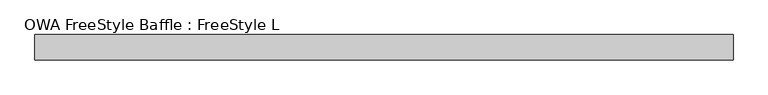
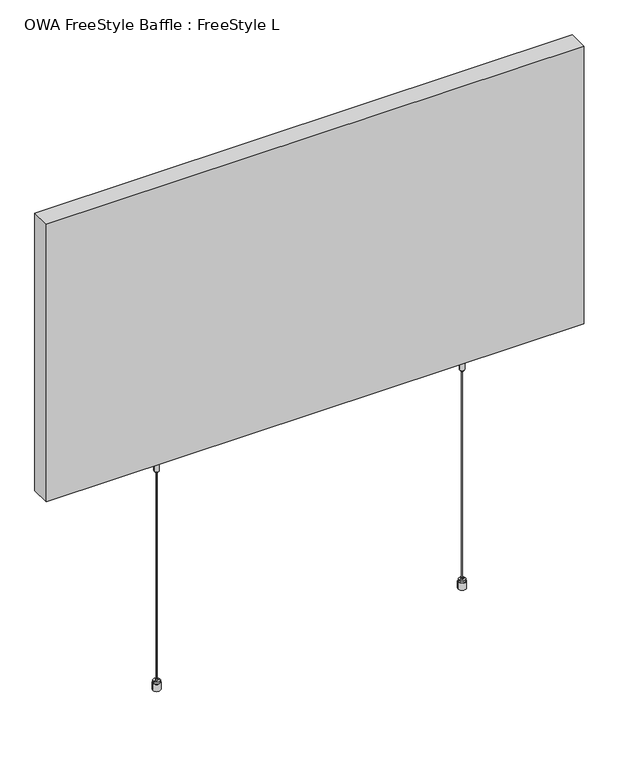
"""IFC4 building model written with IfcOpenShell, lengths in millimetres: proxy geometry, OWA FreeStyle Baffle : FreeStyle L."""

from ifc_helpers import new_model, si_unit, point, frame, frame_2d, origin, place, context, project, spatial, polyline, circle_curve, trimmed, segment, composite_curve, outline, extrude, source, transform, mapped, element, save
from ifc_brep_helpers import plane_surface, cylinder_surface, revolved_surface, advanced_brep


def owa_freestyle_baffle_freestyle_l_403e4e2e(model_context):
    return source(origin(), model_context, "Body", "SolidModel", [
        advanced_brep(
        [(-746.0, 0.0, 0.0), (-738.2593825, 0.0, 0.0), (-753.7406175, 0.0, 0.0), (-738.2593825, 0.0, 15.0), (-753.7406175, 0.0, 15.0), (-739.1843825, 0.0, 15.0), (-752.8156175, 0.0, 15.0), (-739.1843825, 0.0, 19.0), (-752.8156175, 0.0, 19.0), (-743.9343825, 0.0, 19.0), (-748.0656175, 0.0, 19.0), (-743.9343825, 0.0, 22.546183), (-748.0656175, 0.0, 22.546183), (-746.0, 0.0, 22.546183)],
        [
            (0, 1),
            (1, 2, circle_curve(frame((-746.0, 0.0, 0.0), z_axis=(0.0, 0.0, -1.0), x_axis=(-1.0, 0.0, 0.0)), 7.7406175)),
            (2, 0),
            (2, 1, circle_curve(frame((-746.0, 0.0, 0.0), z_axis=(0.0, 0.0, -1.0), x_axis=(-1.0, 0.0, 0.0)), 7.7406175)),
            (1, 3),
            (3, 4, circle_curve(frame((-746.0, 0.0, 15.0), z_axis=(0.0, 0.0, -1.0), x_axis=(-1.0, 0.0, 0.0)), 7.7406175)),
            (4, 2),
            (4, 3, circle_curve(frame((-746.0, 0.0, 15.0), z_axis=(0.0, 0.0, -1.0), x_axis=(-1.0, 0.0, 0.0)), 7.7406175)),
            (3, 5),
            (5, 6, circle_curve(frame((-746.0, 0.0, 15.0), z_axis=(0.0, 0.0, -1.0), x_axis=(-1.0, 0.0, 0.0)), 6.8156175)),
            (6, 4),
            (6, 5, circle_curve(frame((-746.0, 0.0, 15.0), z_axis=(0.0, 0.0, -1.0), x_axis=(-1.0, 0.0, 0.0)), 6.8156175)),
            (5, 7),
            (7, 8, circle_curve(frame((-746.0, 0.0, 19.0), z_axis=(0.0, 0.0, -1.0), x_axis=(-1.0, 0.0, 0.0)), 6.8156175)),
            (8, 6),
            (8, 7, circle_curve(frame((-746.0, 0.0, 19.0), z_axis=(0.0, 0.0, -1.0), x_axis=(-1.0, 0.0, 0.0)), 6.8156175)),
            (7, 9),
            (9, 10, circle_curve(frame((-746.0, 0.0, 19.0), z_axis=(0.0, 0.0, -1.0), x_axis=(-1.0, 0.0, 0.0)), 2.0656175)),
            (10, 8),
            (10, 9, circle_curve(frame((-746.0, 0.0, 19.0), z_axis=(0.0, 0.0, -1.0), x_axis=(-1.0, 0.0, 0.0)), 2.0656175)),
            (9, 11),
            (11, 12, circle_curve(frame((-746.0, 0.0, 22.546183), z_axis=(0.0, 0.0, -1.0), x_axis=(-1.0, 0.0, 0.0)), 2.0656175)),
            (12, 10),
            (12, 11, circle_curve(frame((-746.0, 0.0, 22.546183), z_axis=(0.0, 0.0, -1.0), x_axis=(-1.0, 0.0, 0.0)), 2.0656175)),
            (11, 13),
            (13, 12),
        ],
        [
            plane_surface(frame((-746.0, 0.0, 0.0), z_axis=(0.0, 0.0, -1.0), x_axis=(-1.0, 0.0, 0.0))),
            cylinder_surface(frame((-746.0, 0.0, -10.0), z_axis=(0.0, 0.0, -1.0), x_axis=(-1.0, 0.0, 0.0)), 7.7406175),
            plane_surface(frame((-746.0, 0.0, 15.0), z_axis=(0.0, 0.0, 1.0), x_axis=(-1.0, 0.0, 0.0))),
            cylinder_surface(frame((-746.0, 0.0, -10.0), z_axis=(0.0, 0.0, -1.0), x_axis=(-1.0, 0.0, 0.0)), 6.8156175),
            plane_surface(frame((-746.0, 0.0, 19.0), z_axis=(0.0, 0.0, 1.0), x_axis=(-1.0, 0.0, 0.0))),
            cylinder_surface(frame((-746.0, 0.0, -10.0), z_axis=(0.0, 0.0, -1.0), x_axis=(-1.0, 0.0, 0.0)), 2.0656175),
            plane_surface(frame((-746.0, 0.0, 22.546183), z_axis=(0.0, 0.0, 1.0), x_axis=(-1.0, 0.0, 0.0))),
        ],
        [
            (0, [[1, 2, 3]]),
            (0, [[-3, 4, -1]]),
            (1, [[5, 6, 7, -2]]),
            (1, [[-7, 8, -5, -4]]),
            (2, [[9, 10, 11, -6]]),
            (2, [[-11, 12, -9, -8]]),
            (3, [[13, 14, 15, -10]]),
            (3, [[-15, 16, -13, -12]]),
            (4, [[17, 18, 19, -14]]),
            (4, [[-19, 20, -17, -16]]),
            (5, [[21, 22, 23, -18]]),
            (5, [[-23, 24, -21, -20]]),
            (6, [[25, 26, -22]]),
            (6, [[-26, -25, -24]]),
        ],
    ),
        advanced_brep(
        [(-743.7615389, 0.0, 468.8211737), (-743.6339453, 0.0, 472.8711737), (-748.3660547, 0.0, 472.8711737), (-748.2384611, 0.0, 468.8211737), (-741.1339453, 0.0, 472.8711737), (-750.8660547, 0.0, 472.8711737), (-741.1339453, 0.0, 498.1211737), (-750.8660547, 0.0, 498.1211737), (-730.1339453, 0.0, 498.1211737), (-761.8660547, 0.0, 498.1211737), (-730.1339453, 0.0, 500.0), (-761.8660547, 0.0, 500.0), (-746.0, 0.0, 500.0), (-746.0, 0.0, 468.8211737)],
        [
            (0, 1),
            (1, 2, circle_curve(frame((-746.0, 0.0, 472.8711737), z_axis=(0.0, 0.0, -1.0), x_axis=(-1.0, 0.0, 0.0)), 2.3660547)),
            (2, 3),
            (3, 0, circle_curve(frame((-746.0, 0.0, 468.8211737), z_axis=(0.0, 0.0, 1.0), x_axis=(-1.0, 0.0, 0.0)), 2.2384611)),
            (2, 1, circle_curve(frame((-746.0, 0.0, 472.8711737), z_axis=(0.0, 0.0, -1.0), x_axis=(-1.0, 0.0, 0.0)), 2.3660547)),
            (0, 3, circle_curve(frame((-746.0, 0.0, 468.8211737), z_axis=(0.0, 0.0, 1.0), x_axis=(-1.0, 0.0, 0.0)), 2.2384611)),
            (1, 4),
            (4, 5, circle_curve(frame((-746.0, 0.0, 472.8711737), z_axis=(0.0, 0.0, -1.0), x_axis=(-1.0, 0.0, 0.0)), 4.8660547)),
            (5, 2),
            (5, 4, circle_curve(frame((-746.0, 0.0, 472.8711737), z_axis=(0.0, 0.0, -1.0), x_axis=(-1.0, 0.0, 0.0)), 4.8660547)),
            (4, 6),
            (6, 7, circle_curve(frame((-746.0, 0.0, 498.1211737), z_axis=(0.0, 0.0, -1.0), x_axis=(-1.0, 0.0, 0.0)), 4.8660547)),
            (7, 5),
            (7, 6, circle_curve(frame((-746.0, 0.0, 498.1211737), z_axis=(0.0, 0.0, -1.0), x_axis=(-1.0, 0.0, 0.0)), 4.8660547)),
            (6, 8),
            (8, 9, circle_curve(frame((-746.0, 0.0, 498.1211737), z_axis=(0.0, 0.0, -1.0), x_axis=(-1.0, 0.0, 0.0)), 15.8660547)),
            (9, 7),
            (9, 8, circle_curve(frame((-746.0, 0.0, 498.1211737), z_axis=(0.0, 0.0, -1.0), x_axis=(-1.0, 0.0, 0.0)), 15.8660547)),
            (8, 10),
            (10, 11, circle_curve(frame((-746.0, 0.0, 500.0), z_axis=(0.0, 0.0, -1.0), x_axis=(-1.0, 0.0, 0.0)), 15.8660547)),
            (11, 9),
            (11, 10, circle_curve(frame((-746.0, 0.0, 500.0), z_axis=(0.0, 0.0, -1.0), x_axis=(-1.0, 0.0, 0.0)), 15.8660547)),
            (10, 12),
            (12, 11),
            (13, 0),
            (3, 13),
        ],
        [
            revolved_surface(polyline([(-748.3660547, 0.0, 472.8711737), (-748.2384611, 0.0, 468.8211737)]), (-746.0, 0.0, 501.8401096), (0.0, 0.0, -1.0)),
            plane_surface(frame((-746.0, 0.0, 472.8711737), z_axis=(0.0, 0.0, -1.0), x_axis=(-1.0, 0.0, 0.0))),
            cylinder_surface(frame((-746.0, 0.0, 501.8401096), z_axis=(0.0, 0.0, -1.0), x_axis=(-1.0, 0.0, 0.0)), 4.8660547),
            plane_surface(frame((-746.0, 0.0, 498.1211737), z_axis=(0.0, 0.0, -1.0), x_axis=(-1.0, 0.0, 0.0))),
            cylinder_surface(frame((-746.0, 0.0, 501.8401096), z_axis=(0.0, 0.0, -1.0), x_axis=(-1.0, 0.0, 0.0)), 15.8660547),
            plane_surface(frame((-746.0, 0.0, 500.0), z_axis=(0.0, 0.0, 1.0), x_axis=(-1.0, 0.0, 0.0))),
            plane_surface(frame((-746.0, 0.0, 468.8211737), z_axis=(0.0, 0.0, -1.0), x_axis=(-1.0, 0.0, 0.0))),
        ],
        [
            (0, [[1, 2, 3, 4]]),
            (0, [[-3, 5, -1, 6]]),
            (1, [[7, 8, 9, -2]]),
            (1, [[-9, 10, -7, -5]]),
            (2, [[11, 12, 13, -8]]),
            (2, [[-13, 14, -11, -10]]),
            (3, [[15, 16, 17, -12]]),
            (3, [[-17, 18, -15, -14]]),
            (4, [[19, 20, 21, -16]]),
            (4, [[-21, 22, -19, -18]]),
            (5, [[23, 24, -20]]),
            (5, [[-24, -23, -22]]),
            (6, [[25, -4, 26]]),
            (6, [[-26, -6, -25]]),
        ],
    ),
        extrude(outline(composite_curve([segment(trimmed(circle_curve(frame_2d((-746.0, 0.0)), 1.0), [point((-747.0, 0.0))], [point((-745.0, 0.0))], False, "CARTESIAN"), True, "CONTINUOUS"), segment(trimmed(circle_curve(frame_2d((-746.0, 0.0)), 1.0), [point((-745.0, 0.0))], [point((-747.0, 0.0))], False, "CARTESIAN"), True, "CONTINUOUS")], self_intersect=False)), frame((0.0, 0.0, 22.546183), z_axis=(0.0, 0.0, 1.0), x_axis=(1.0, 0.0, 0.0)), (0.0, 0.0, 1.0), 446.2749908),
        advanced_brep(
        [(-121.0, 0.0, 0.0), (-113.2593825, 0.0, 0.0), (-128.7406175, 0.0, 0.0), (-113.2593825, 0.0, 15.0), (-128.7406175, 0.0, 15.0), (-114.1843825, 0.0, 15.0), (-127.8156175, 0.0, 15.0), (-114.1843825, 0.0, 19.0), (-127.8156175, 0.0, 19.0), (-118.9343825, 0.0, 19.0), (-123.0656175, 0.0, 19.0), (-118.9343825, 0.0, 22.546183), (-123.0656175, 0.0, 22.546183), (-121.0, 0.0, 22.546183)],
        [
            (0, 1),
            (1, 2, circle_curve(frame((-121.0, 0.0, 0.0), z_axis=(0.0, 0.0, -1.0), x_axis=(1.0, 0.0, 0.0)), 7.7406175)),
            (2, 0),
            (2, 1, circle_curve(frame((-121.0, 0.0, 0.0), z_axis=(0.0, 0.0, -1.0), x_axis=(1.0, 0.0, 0.0)), 7.7406175)),
            (1, 3),
            (3, 4, circle_curve(frame((-121.0, 0.0, 15.0), z_axis=(0.0, 0.0, -1.0), x_axis=(1.0, 0.0, 0.0)), 7.7406175)),
            (4, 2),
            (4, 3, circle_curve(frame((-121.0, 0.0, 15.0), z_axis=(0.0, 0.0, -1.0), x_axis=(1.0, 0.0, 0.0)), 7.7406175)),
            (3, 5),
            (5, 6, circle_curve(frame((-121.0, 0.0, 15.0), z_axis=(0.0, 0.0, -1.0), x_axis=(1.0, 0.0, 0.0)), 6.8156175)),
            (6, 4),
            (6, 5, circle_curve(frame((-121.0, 0.0, 15.0), z_axis=(0.0, 0.0, -1.0), x_axis=(1.0, 0.0, 0.0)), 6.8156175)),
            (5, 7),
            (7, 8, circle_curve(frame((-121.0, 0.0, 19.0), z_axis=(0.0, 0.0, -1.0), x_axis=(1.0, 0.0, 0.0)), 6.8156175)),
            (8, 6),
            (8, 7, circle_curve(frame((-121.0, 0.0, 19.0), z_axis=(0.0, 0.0, -1.0), x_axis=(1.0, 0.0, 0.0)), 6.8156175)),
            (7, 9),
            (9, 10, circle_curve(frame((-121.0, 0.0, 19.0), z_axis=(0.0, 0.0, -1.0), x_axis=(1.0, 0.0, 0.0)), 2.0656175)),
            (10, 8),
            (10, 9, circle_curve(frame((-121.0, 0.0, 19.0), z_axis=(0.0, 0.0, -1.0), x_axis=(1.0, 0.0, 0.0)), 2.0656175)),
            (9, 11),
            (11, 12, circle_curve(frame((-121.0, 0.0, 22.546183), z_axis=(0.0, 0.0, -1.0), x_axis=(1.0, 0.0, 0.0)), 2.0656175)),
            (12, 10),
            (12, 11, circle_curve(frame((-121.0, 0.0, 22.546183), z_axis=(0.0, 0.0, -1.0), x_axis=(1.0, 0.0, 0.0)), 2.0656175)),
            (11, 13),
            (13, 12),
        ],
        [
            plane_surface(frame((-121.0, 0.0, 0.0), z_axis=(0.0, 0.0, -1.0), x_axis=(1.0, 0.0, 0.0))),
            cylinder_surface(frame((-121.0, 0.0, -10.0), z_axis=(0.0, 0.0, -1.0), x_axis=(1.0, 0.0, 0.0)), 7.7406175),
            plane_surface(frame((-121.0, 0.0, 15.0), z_axis=(0.0, 0.0, 1.0), x_axis=(1.0, 0.0, 0.0))),
            cylinder_surface(frame((-121.0, 0.0, -10.0), z_axis=(0.0, 0.0, -1.0), x_axis=(1.0, 0.0, 0.0)), 6.8156175),
            plane_surface(frame((-121.0, 0.0, 19.0), z_axis=(0.0, 0.0, 1.0), x_axis=(1.0, 0.0, 0.0))),
            cylinder_surface(frame((-121.0, 0.0, -10.0), z_axis=(0.0, 0.0, -1.0), x_axis=(1.0, 0.0, 0.0)), 2.0656175),
            plane_surface(frame((-121.0, 0.0, 22.546183), z_axis=(0.0, 0.0, 1.0), x_axis=(1.0, 0.0, 0.0))),
        ],
        [
            (0, [[1, 2, 3]]),
            (0, [[-3, 4, -1]]),
            (1, [[-2, 5, 6, 7]]),
            (1, [[-4, -7, 8, -5]]),
            (2, [[-6, 9, 10, 11]]),
            (2, [[-8, -11, 12, -9]]),
            (3, [[-10, 13, 14, 15]]),
            (3, [[-12, -15, 16, -13]]),
            (4, [[-14, 17, 18, 19]]),
            (4, [[-16, -19, 20, -17]]),
            (5, [[-18, 21, 22, 23]]),
            (5, [[-20, -23, 24, -21]]),
            (6, [[-22, 25, 26]]),
            (6, [[-24, -26, -25]]),
        ],
    ),
        advanced_brep(
        [(-123.2384611, 0.0, 468.8211737), (-118.7615389, 0.0, 468.8211737), (-118.6339453, 0.0, 472.8711737), (-123.3660547, 0.0, 472.8711737), (-116.1339453, 0.0, 472.8711737), (-125.8660547, 0.0, 472.8711737), (-116.1339453, 0.0, 498.1211737), (-125.8660547, 0.0, 498.1211737), (-105.1339453, 0.0, 498.1211737), (-136.8660547, 0.0, 498.1211737), (-105.1339453, 0.0, 500.0), (-136.8660547, 0.0, 500.0), (-121.0, 0.0, 500.0), (-121.0, 0.0, 468.8211737)],
        [
            (0, 1, circle_curve(frame((-121.0, 0.0, 468.8211737), z_axis=(0.0, 0.0, 1.0), x_axis=(1.0, 0.0, 0.0)), 2.2384611)),
            (1, 2),
            (2, 3, circle_curve(frame((-121.0, 0.0, 472.8711737), z_axis=(0.0, 0.0, -1.0), x_axis=(1.0, 0.0, 0.0)), 2.3660547)),
            (3, 0),
            (1, 0, circle_curve(frame((-121.0, 0.0, 468.8211737), z_axis=(0.0, 0.0, 1.0), x_axis=(1.0, 0.0, 0.0)), 2.2384611)),
            (3, 2, circle_curve(frame((-121.0, 0.0, 472.8711737), z_axis=(0.0, 0.0, -1.0), x_axis=(1.0, 0.0, 0.0)), 2.3660547)),
            (2, 4),
            (4, 5, circle_curve(frame((-121.0, 0.0, 472.8711737), z_axis=(0.0, 0.0, -1.0), x_axis=(1.0, 0.0, 0.0)), 4.8660547)),
            (5, 3),
            (5, 4, circle_curve(frame((-121.0, 0.0, 472.8711737), z_axis=(0.0, 0.0, -1.0), x_axis=(1.0, 0.0, 0.0)), 4.8660547)),
            (4, 6),
            (6, 7, circle_curve(frame((-121.0, 0.0, 498.1211737), z_axis=(0.0, 0.0, -1.0), x_axis=(1.0, 0.0, 0.0)), 4.8660547)),
            (7, 5),
            (7, 6, circle_curve(frame((-121.0, 0.0, 498.1211737), z_axis=(0.0, 0.0, -1.0), x_axis=(1.0, 0.0, 0.0)), 4.8660547)),
            (6, 8),
            (8, 9, circle_curve(frame((-121.0, 0.0, 498.1211737), z_axis=(0.0, 0.0, -1.0), x_axis=(1.0, 0.0, 0.0)), 15.8660547)),
            (9, 7),
            (9, 8, circle_curve(frame((-121.0, 0.0, 498.1211737), z_axis=(0.0, 0.0, -1.0), x_axis=(1.0, 0.0, 0.0)), 15.8660547)),
            (8, 10),
            (10, 11, circle_curve(frame((-121.0, 0.0, 500.0), z_axis=(0.0, 0.0, -1.0), x_axis=(1.0, 0.0, 0.0)), 15.8660547)),
            (11, 9),
            (11, 10, circle_curve(frame((-121.0, 0.0, 500.0), z_axis=(0.0, 0.0, -1.0), x_axis=(1.0, 0.0, 0.0)), 15.8660547)),
            (10, 12),
            (12, 11),
            (13, 1),
            (0, 13),
        ],
        [
            revolved_surface(polyline([(-118.6339453, 0.0, 472.8711737), (-118.7615389, 0.0, 468.8211737)]), (-121.0, 0.0, 501.8401096), (0.0, 0.0, -1.0)),
            plane_surface(frame((-121.0, 0.0, 472.8711737), z_axis=(0.0, 0.0, -1.0), x_axis=(1.0, 0.0, 0.0))),
            cylinder_surface(frame((-121.0, 0.0, 501.8401096), z_axis=(0.0, 0.0, -1.0), x_axis=(1.0, 0.0, 0.0)), 4.8660547),
            plane_surface(frame((-121.0, 0.0, 498.1211737), z_axis=(0.0, 0.0, -1.0), x_axis=(1.0, 0.0, 0.0))),
            cylinder_surface(frame((-121.0, 0.0, 501.8401096), z_axis=(0.0, 0.0, -1.0), x_axis=(1.0, 0.0, 0.0)), 15.8660547),
            plane_surface(frame((-121.0, 0.0, 500.0), z_axis=(0.0, 0.0, 1.0), x_axis=(1.0, 0.0, 0.0))),
            plane_surface(frame((-121.0, 0.0, 468.8211737), z_axis=(0.0, 0.0, -1.0), x_axis=(1.0, 0.0, 0.0))),
        ],
        [
            (0, [[1, 2, 3, 4]]),
            (0, [[5, -4, 6, -2]]),
            (1, [[-3, 7, 8, 9]]),
            (1, [[-6, -9, 10, -7]]),
            (2, [[-8, 11, 12, 13]]),
            (2, [[-10, -13, 14, -11]]),
            (3, [[-12, 15, 16, 17]]),
            (3, [[-14, -17, 18, -15]]),
            (4, [[-16, 19, 20, 21]]),
            (4, [[-18, -21, 22, -19]]),
            (5, [[-20, 23, 24]]),
            (5, [[-22, -24, -23]]),
            (6, [[25, -1, 26]]),
            (6, [[-26, -5, -25]]),
        ],
    ),
        extrude(outline(composite_curve([segment(trimmed(circle_curve(frame_2d((-121.0, 0.0)), 1.0), [point((-120.0, 0.0))], [point((-122.0, 0.0))], False, "CARTESIAN"), True, "CONTINUOUS"), segment(trimmed(circle_curve(frame_2d((-121.0, 0.0)), 1.0), [point((-122.0, 0.0))], [point((-120.0, 0.0))], False, "CARTESIAN"), True, "CONTINUOUS")], self_intersect=False)), frame((0.0, 0.0, 22.546183), z_axis=(0.0, 0.0, 1.0), x_axis=(1.0, 0.0, 0.0)), (0.0, 0.0, 1.0), 446.2749908),
        extrude(outline(polyline([(116.5, -20.0), (-983.5, -20.0), (-983.5, 20.0), (116.5, 20.0), (116.5, -20.0)])), frame((0.0, 0.0, 500.0), z_axis=(0.0, 0.0, 1.0), x_axis=(1.0, 0.0, 0.0)), (0.0, 0.0, 1.0), 600.0),
    ])


if __name__ == "__main__":
    model = new_model("IFC4")
    model_context = context("Model", 3, world=origin())
    ifc_project = project(units=[si_unit("LENGTHUNIT", "METRE", prefix="MILLI")], contexts=[model_context])
    site = spatial("IfcSite", under=ifc_project)
    building = spatial("IfcBuilding", under=site)
    placement = place(None, origin())
    owa_freestyle_baffle_freestyle_l_shape = owa_freestyle_baffle_freestyle_l_403e4e2e(model_context)
    element("IfcBuildingElementProxy", 1, Name="OWA FreeStyle Baffle : FreeStyle L", ObjectType="OWA FreeStyle Baffle : FreeStyle L", at=placement, inside=building, context=model_context, shape_type="MappedRepresentation", body=[
        mapped(owa_freestyle_baffle_freestyle_l_shape, transform((0.0, 0.0, 0.0), x_axis=(1.0, 0.0, 0.0), y_axis=(0.0, 1.0, 0.0), z_axis=(0.0, 0.0, 1.0))),
    ])
    save(model, "model.ifc")
